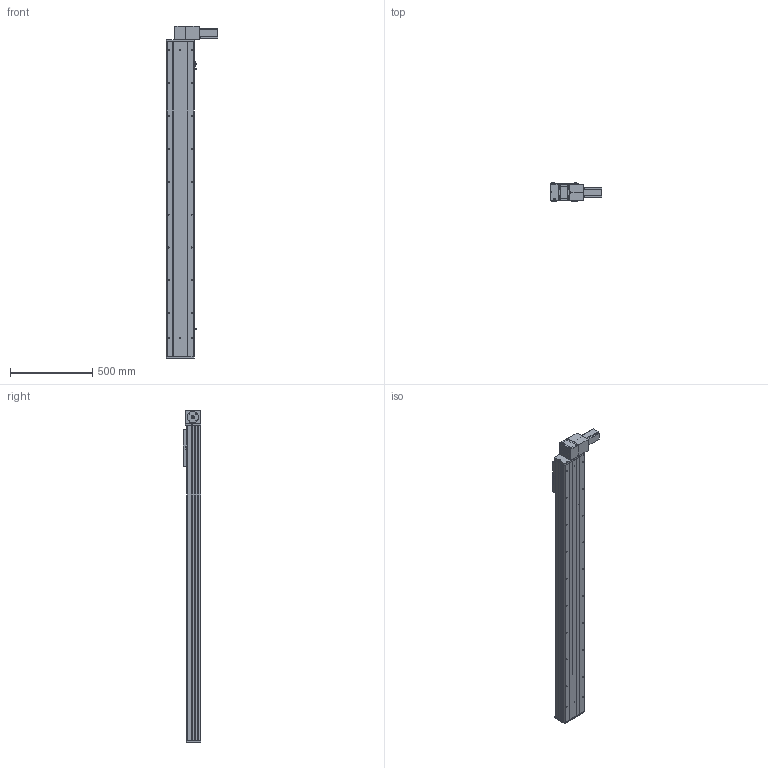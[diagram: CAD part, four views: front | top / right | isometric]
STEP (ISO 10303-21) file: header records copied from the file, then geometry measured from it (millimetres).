
FILE_DESCRIPTION (( 'STEP AP203' ), '1' );
FILE_NAME ('Y170CB-D105-S1600-BD-P400W.STEP', '2020-02-20T08:48:33', ( '微软用户' ), ( '微软中国' ), 'SwSTEP 2.0', 'SolidWorks 2017', '' );
FILE_SCHEMA (( 'CONFIG_CONTROL_DESIGN' ));
Length unit declared in the file: millimetre
Products named in the file (16): 70B喘謫眊----; 70C--詩湍揤踡え-; 0B薊粣ん眊-400W--; 70CB--耜裔; Y170CB-D105-S1600-BD-P400W; 70C-雄赽釱-奻-; 0C--雄赽釱俋欶-170; B-源倛裔啣; 70CB-詩湍--; san松下电机400不带刹车----; Y100-135俋离換覜ん--; 70CB-掛极-; Y170CB-陔俋离換覜結え---; --70CB --喘謫眊楊擘啣-; Y1埴倛裔; 70CB-耜裔啣-
Assembly tree (19 placements, depth 2):
  Y170CB-D105-S1600-BD-P400W
    B-源倛裔啣
    san松下电机400不带刹车----
    70CB-掛极-
    --70CB --喘謫眊楊擘啣-
    70CB-耜裔啣-  x2
    70C--詩湍揤踡え-  x2
    70CB--耜裔
    70C-雄赽釱-奻-
    0C--雄赽釱俋欶-170
    70CB-詩湍--
    Y100-135俋离換覜ん--  x3
    Y170CB-陔俋离換覜結え---
    Y1埴倛裔
    70B喘謫眊----
    0B薊粣ん眊-400W--
Bounding box: 313.5 x 107 x 2016 mm (x, y, z)
Volume: 9189287.3 mm3; surface area: 3176015.4 mm2
Topology: 19 solids, 19 shells, 944 faces, 2498 edges, 1656 vertices
Faces by surface type: cylinder 498, plane 422, cone 24
Entity records: 29595 total; most frequent: CARTESIAN_POINT 5506, DIRECTION 4815, ORIENTED_EDGE 4478, EDGE_CURVE 2239, AXIS2_PLACEMENT_3D 1781, VERTEX_POINT 1486, VECTOR 1253, LINE 1253
